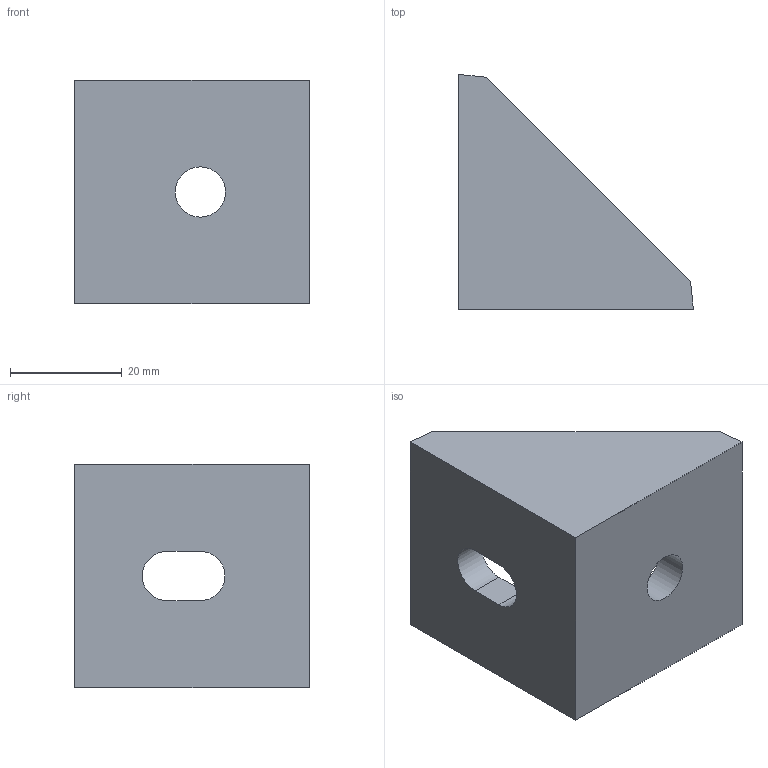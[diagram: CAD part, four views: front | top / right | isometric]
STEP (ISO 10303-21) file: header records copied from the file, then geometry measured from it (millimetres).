
FILE_DESCRIPTION (( 'STEP AP214' ), '1' );
FILE_NAME ('SL03003.step', '2024-12-03T16:30:59', ( '' ), ( '' ), 'SwSTEP 2.0', 'SolidWorks 2023', '' );
FILE_SCHEMA (( 'AUTOMOTIVE_DESIGN' ));
Length unit declared in the file: millimetre
Products named in the file (1): SL03003
Bounding box: 42 x 42 x 40 mm (x, y, z)
Volume: 20996.8 mm3; surface area: 9856.8 mm2
Topology: 1 solids, 1 shells, 19 faces, 47 edges, 30 vertices
Faces by surface type: plane 14, cylinder 5
Full cylindrical faces by diameter (mm): 9 x1
Entity records: 585 total; most frequent: CARTESIAN_POINT 96, DIRECTION 96, ORIENTED_EDGE 92, EDGE_CURVE 46, LINE 36, VECTOR 36, AXIS2_PLACEMENT_3D 30, VERTEX_POINT 30
